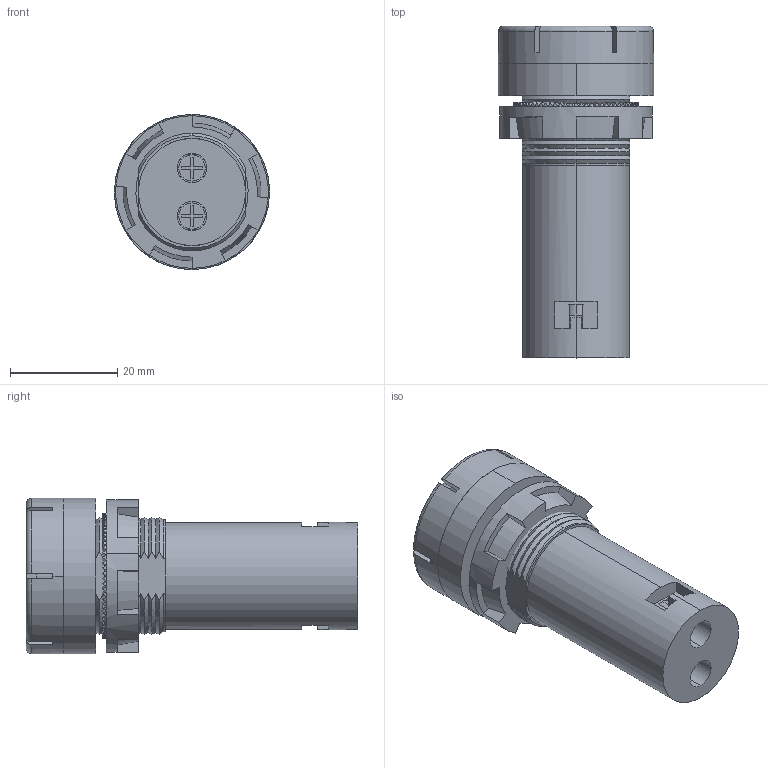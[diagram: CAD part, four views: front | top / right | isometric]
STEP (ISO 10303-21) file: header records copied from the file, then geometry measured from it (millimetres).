
FILE_DESCRIPTION (( 'STEP AP214' ), '1' );
FILE_NAME ('3D 沓麧錪 MT22-SM24.STEP', '2017-06-25T19:29:53', ( '' ), ( '' ), 'SwSTEP 2.0', 'SolidWorks 2011', '' );
FILE_SCHEMA (( 'AUTOMOTIVE_DESIGN' ));
Length unit declared in the file: millimetre
Products named in the file (4): 署赅 玮铐赅_1牮囫; 扻錪犩; Ëàìïà MT22-SM24; 3D 沓麧錪 MT22-SM24
Assembly tree (3 placements, depth 2):
  3D 沓麧錪 MT22-SM24
    Ëàìïà MT22-SM24
    扻錪犩
    署赅 玮铐赅_1牮囫
Bounding box: 29 x 62 x 29 mm (x, y, z)
Volume: 19982.6 mm3; surface area: 11247.4 mm2
Topology: 3 solids, 4 shells, 498 faces, 1476 edges, 983 vertices
Faces by surface type: plane 285, bspline 74, cylinder 73, cone 60, torus 6
Entity records: 23501 total; most frequent: CARTESIAN_POINT 10129, ORIENTED_EDGE 2952, DIRECTION 2035, EDGE_CURVE 1476, VERTEX_POINT 983, AXIS2_PLACEMENT_3D 745, VECTOR 545, LINE 545
